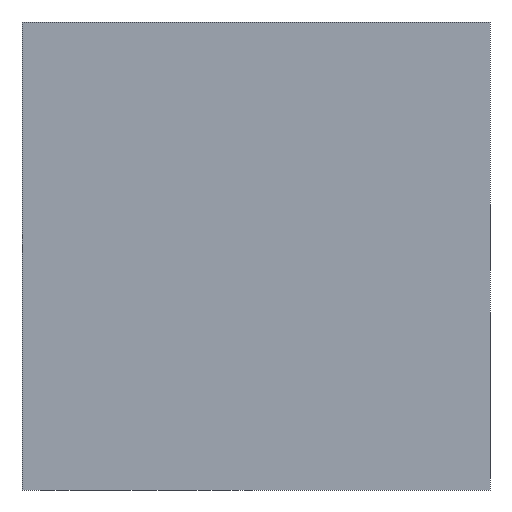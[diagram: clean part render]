
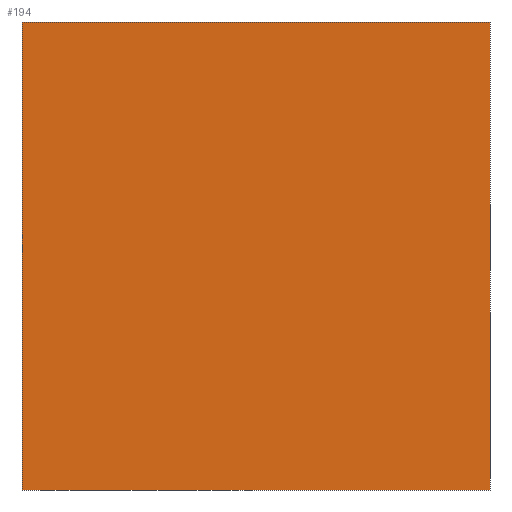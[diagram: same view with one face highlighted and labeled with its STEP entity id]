
A CAD part, front view. The second image highlights one B-rep face of the part: STEP entity #194.
In plain terms, the highlighted planar face has unit normal (0, -1, 0).
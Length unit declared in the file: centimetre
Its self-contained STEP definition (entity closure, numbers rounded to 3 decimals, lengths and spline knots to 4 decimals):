
#22 = DIRECTION ( 'NONE',  ( 0., 0., -1. ) ) ;
#25 = CARTESIAN_POINT ( 'NONE',  ( 0., 0., 1000. ) ) ;
#38 = VECTOR ( 'NONE', #22, 100. ) ;
#96 = CARTESIAN_POINT ( 'NONE',  ( 0., 0., 0. ) ) ;
#113 = VERTEX_POINT ( 'NONE', #730 ) ;
#185 = DIRECTION ( 'NONE',  ( 0., 0., 1. ) ) ;
#194 = ADVANCED_FACE ( 'NONE', ( #419 ), #740, .F. ) ;
#198 = CARTESIAN_POINT ( 'NONE',  ( 0., 0., 1000. ) ) ;
#233 = CARTESIAN_POINT ( 'NONE',  ( 1000., 0., 0. ) ) ;
#242 = EDGE_CURVE ( 'NONE', #113, #329, #1017, .T. ) ;
#258 = EDGE_CURVE ( 'NONE', #329, #570, #834, .T. ) ;
#271 = AXIS2_PLACEMENT_3D ( 'NONE', #25, #901, #185 ) ;
#275 = ORIENTED_EDGE ( 'NONE', *, *, #753, .T. ) ;
#328 = LINE ( 'NONE', #415, #38 ) ;
#329 = VERTEX_POINT ( 'NONE', #754 ) ;
#382 = VECTOR ( 'NONE', #1009, 100. ) ;
#401 = CARTESIAN_POINT ( 'NONE',  ( 0., 0., 0. ) ) ;
#415 = CARTESIAN_POINT ( 'NONE',  ( 0., 0., 1000. ) ) ;
#419 = FACE_OUTER_BOUND ( 'NONE', #756, .T. ) ;
#468 = VECTOR ( 'NONE', #519, 100. ) ;
#495 = EDGE_CURVE ( 'NONE', #742, #570, #957, .T. ) ;
#519 = DIRECTION ( 'NONE',  ( 0., 0., -1. ) ) ;
#570 = VERTEX_POINT ( 'NONE', #233 ) ;
#712 = ORIENTED_EDGE ( 'NONE', *, *, #495, .T. ) ;
#725 = DIRECTION ( 'NONE',  ( 1., 0., 0. ) ) ;
#730 = CARTESIAN_POINT ( 'NONE',  ( 0., 0., 1000. ) ) ;
#740 = PLANE ( 'NONE',  #271 ) ;
#742 = VERTEX_POINT ( 'NONE', #96 ) ;
#753 = EDGE_CURVE ( 'NONE', #113, #742, #328, .T. ) ;
#754 = CARTESIAN_POINT ( 'NONE',  ( 1000., 0., 1000. ) ) ;
#756 = EDGE_LOOP ( 'NONE', ( #712, #915, #1011, #275 ) ) ;
#834 = LINE ( 'NONE', #916, #468 ) ;
#856 = VECTOR ( 'NONE', #725, 100. ) ;
#901 = DIRECTION ( 'NONE',  ( 0., 1., 0. ) ) ;
#915 = ORIENTED_EDGE ( 'NONE', *, *, #258, .F. ) ;
#916 = CARTESIAN_POINT ( 'NONE',  ( 1000., 0., 1000. ) ) ;
#957 = LINE ( 'NONE', #401, #856 ) ;
#1009 = DIRECTION ( 'NONE',  ( 1., 0., 0. ) ) ;
#1011 = ORIENTED_EDGE ( 'NONE', *, *, #242, .F. ) ;
#1017 = LINE ( 'NONE', #198, #382 ) ;
